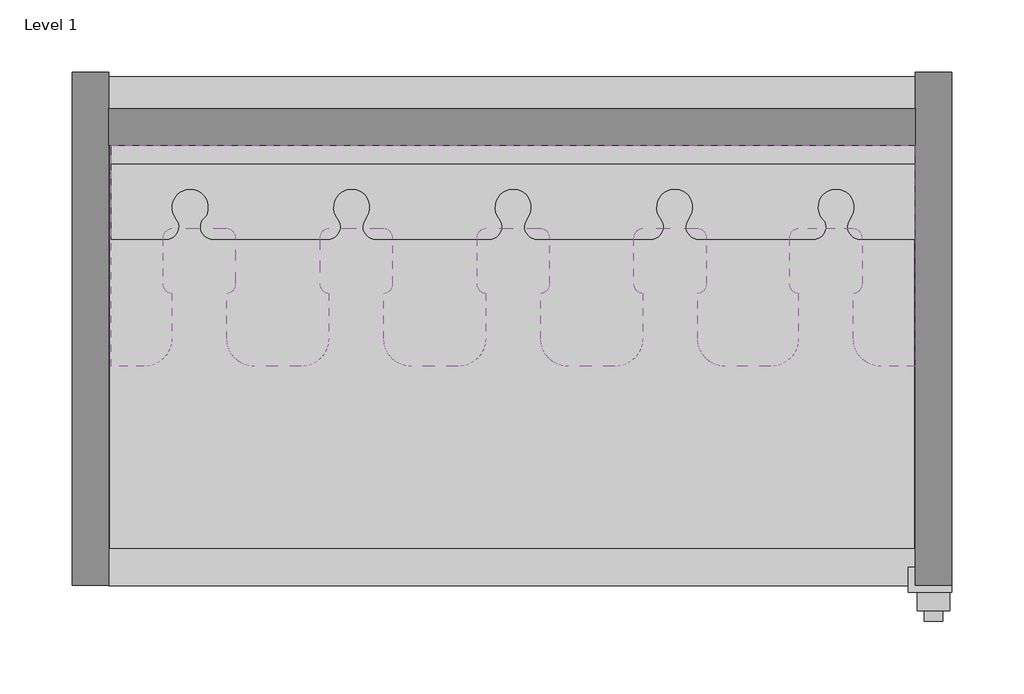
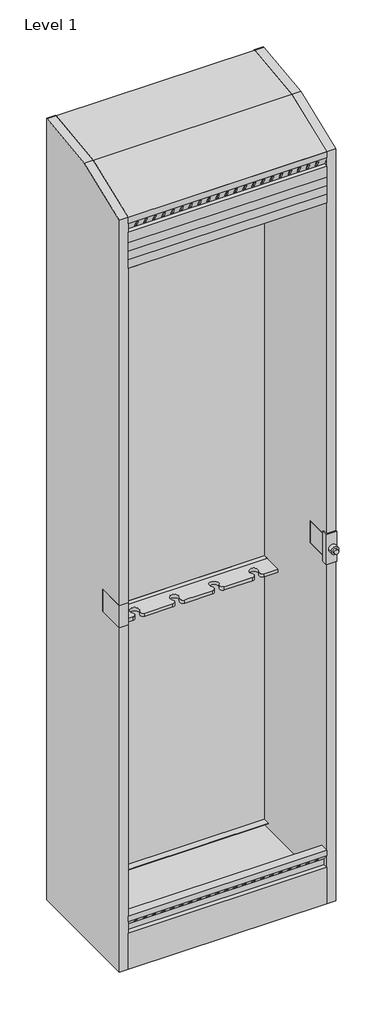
# One storey: 4 furniture elements.
"""IFC4 building model written with IfcOpenShell, lengths in millimetres."""

from ifc_helpers import new_model, si_unit, origin, place, context, project, spatial, transform, mapped, element, save
from components import furniture_0b1650b5, cv310_08d24f6f, cv311_0d59ec18, flr_cab_53eb0633

model = new_model("IFC4")

# Units and contexts
model_context = context("Model", 3, world=origin())
ifc_project = project(units=[si_unit("LENGTHUNIT", "METRE", prefix="MILLI")], contexts=[model_context])

# Site, building, storey
site = spatial("IfcSite", under=ifc_project)
building = spatial("IfcBuilding", under=site)
storey = spatial("IfcBuildingStorey", under=building, Name="Level 1", Elevation=0.0)

# Furniture
placement = place(None, origin())
furniture_shape = furniture_0b1650b5(model_context)
element("IfcFurniture", 1, ObjectType="HermanMiller_CoStruc_CV300_EndoscopyCatheterCabinet : 92\"H Lock", at=placement, inside=storey, context=model_context, shape_type="MappedRepresentation", body=[
    mapped(furniture_shape, transform((286.0622951, 0.0, 0.0), x_axis=(1.0, 0.0, 0.0), y_axis=(0.0, 1.0, 0.0), z_axis=(0.0, 0.0, 1.0))),
])
cv310_shape = cv310_08d24f6f(model_context)
element("IfcFurniture", 2, ObjectType="HermanMiller_CoStruc_CV310_EndoscopeBracket : CV310", at=placement, inside=storey, context=model_context, shape_type="MappedRepresentation", body=[
    mapped(cv310_shape, transform((286.8623951, -50.8, 0.0), x_axis=(1.0, 0.0, 0.0), y_axis=(0.0, 1.0, 0.0), z_axis=(0.0, 0.0, 1.0))),
])
cv311_shape = cv311_0d59ec18(model_context)
element("IfcFurniture", 3, ObjectType="HermanMiller_CoStruc_CV311_DistalTubeBracket : CV311", at=placement, inside=storey, context=model_context, shape_type="MappedRepresentation", body=[
    mapped(cv311_shape, transform((286.8623951, -50.8, 0.0), x_axis=(1.0, 0.0, 0.0), y_axis=(0.0, 1.0, 0.0), z_axis=(0.0, 0.0, 1.0))),
])
flr_cab_shape = flr_cab_53eb0633(model_context)
element("IfcFurniture", 4, ObjectType="HermanMiller_CoStruc_CV314_CabinetFloor : Flr Cab", at=placement, inside=storey, context=model_context, shape_type="MappedRepresentation", body=[
    mapped(flr_cab_shape, transform((304.8, -177.8, 0.0), x_axis=(1.0, 0.0, 0.0), y_axis=(0.0, 1.0, 0.0), z_axis=(0.0, 0.0, 1.0))),
])

save(model, "model.ifc")
